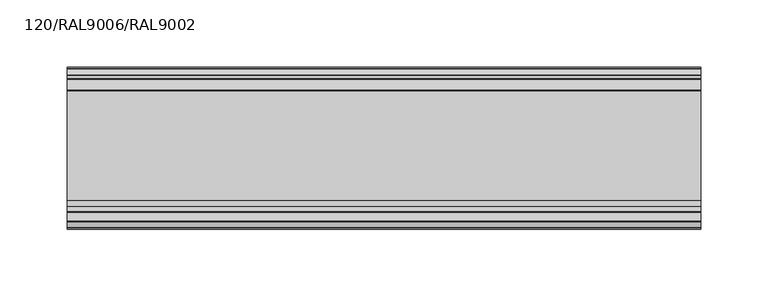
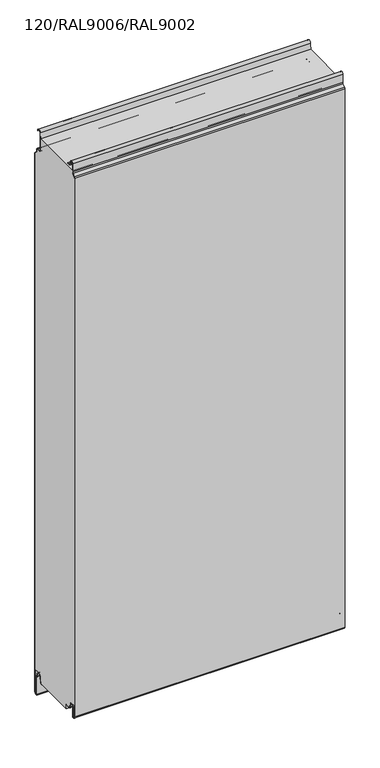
"""IFC4 building model written with IfcOpenShell, lengths in millimetres: plate geometry, TR_C_H_FHL_Panel : 120/RAL9006/RAL9002."""

from ifc_helpers import new_model, si_unit, point, frame, frame_2d, origin, place, context, project, spatial, polyline, circle_curve, trimmed, segment, composite_curve, outline, extrude, source, transform, mapped, element, save


def plate_120_ral9006_ral9002_e030643e(model_context):
    return source(origin(), model_context, "Body", "SweptSolid", [
        extrude(outline(composite_curve([segment(polyline([(-17.4455763, 1000.0), (-17.6, 998.2349288), (-17.6, 979.1)]), True, "CONTINUOUS"), segment(trimmed(circle_curve(frame_2d((-14.8, 979.1)), 2.8), [point((-17.6, 979.1))], [point((-14.8, 976.3))], True, "CARTESIAN"), True, "CONTINUOUS"), segment(polyline([(-14.8, 976.3), (-8.9, 976.3)]), True, "CONTINUOUS"), segment(trimmed(circle_curve(frame_2d((-8.9, 974.4)), 1.9), [point((-8.9, 976.3))], [point((-7.0, 974.4))], False, "CARTESIAN"), True, "CONTINUOUS"), segment(polyline([(-7.0, 974.4), (-7.0, 971.5838835)]), True, "CONTINUOUS"), segment(trimmed(circle_curve(frame_2d((-4.2, 971.5838835)), 2.8), [point((-7.0, 971.5838835))], [point((-6.179899, 969.6039845))], True, "CARTESIAN"), True, "CONTINUOUS"), segment(polyline([(-6.179899, 969.6039845), (-1.3564971, 964.7805826)]), True, "CONTINUOUS"), segment(trimmed(circle_curve(frame_2d((-2.7, 963.4370797)), 1.9), [point((-1.3564971, 964.7805826))], [point((-0.8, 963.4370797))], False, "CARTESIAN"), True, "CONTINUOUS"), segment(polyline([(-0.8, 963.4370797), (-0.8, 15.9993484), (-12.3520294, 15.9993484)]), True, "CONTINUOUS"), segment(trimmed(circle_curve(frame_2d((-12.3520294, 11.0993484)), 4.9), [point((-12.3520294, 15.9993484))], [point((-17.2333835, 11.5264116))], True, "CARTESIAN"), True, "CONTINUOUS"), segment(polyline([(-17.2333835, 11.5264116), (-18.0972969, 1.6518352)]), True, "CONTINUOUS"), segment(trimmed(circle_curve(frame_2d((-19.7908279, 1.8)), 1.7), [point((-18.0972969, 1.6518352))], [point((-19.7908279, 0.1))], False, "CARTESIAN"), True, "CONTINUOUS"), segment(polyline([(-19.7908279, 0.1), (-20.8, 0.0), (-94.86, 0.0), (-94.86, 7.9), (-102.3925589, 7.9)]), True, "CONTINUOUS"), segment(trimmed(circle_curve(frame_2d((-102.3925589, 10.85)), 2.95), [point((-102.3925589, 7.9))], [point((-105.2977418, 10.3377379))], False, "CARTESIAN"), True, "CONTINUOUS"), segment(polyline([(-105.2977418, 10.3377379), (-106.364567, 16.3880048)]), True, "CONTINUOUS"), segment(trimmed(circle_curve(frame_2d((-110.55, 15.65)), 4.25), [point((-106.364567, 16.3880048))], [point((-110.55, 19.9))], True, "CARTESIAN"), True, "CONTINUOUS"), segment(polyline([(-110.55, 19.9), (-119.2, 19.9), (-119.2, 989.8218254)]), True, "CONTINUOUS"), segment(trimmed(circle_curve(frame_2d((-117.0, 989.8218254)), 2.2), [point((-119.2, 989.8218254))], [point((-118.5556349, 991.3774603))], False, "CARTESIAN"), True, "CONTINUOUS"), segment(polyline([(-118.5556349, 991.3774603), (-114.1665476, 995.7665476)]), True, "CONTINUOUS"), segment(trimmed(circle_curve(frame_2d((-116.5, 998.1)), 3.3), [point((-114.1665476, 995.7665476))], [point((-113.2, 998.1))], True, "CARTESIAN"), True, "CONTINUOUS"), segment(polyline([(-113.2, 998.1), (-113.2, 1000.0), (-17.4455763, 1000.0)]), True, "CONTINUOUS")], self_intersect=False)), frame((-235.0, 0.0, 0.0), z_axis=(1.0, 0.0, 0.0), x_axis=(0.0, 1.0, 0.0)), (0.0, 0.0, 1.0), 470.0),
        extrude(outline(composite_curve([segment(polyline([(-0.8, -25.1006169), (-0.8, 963.4370797)]), True, "CONTINUOUS"), segment(trimmed(circle_curve(frame_2d((-2.7, 963.4370797)), 1.9), [point((-0.8, 963.4370797))], [point((-1.3564971, 964.7805826))], True, "CARTESIAN"), True, "CONTINUOUS"), segment(polyline([(-1.3564971, 964.7805826), (-6.179899, 969.6039845)]), True, "CONTINUOUS"), segment(trimmed(circle_curve(frame_2d((-4.2, 971.5838835)), 2.8), [point((-6.179899, 969.6039845))], [point((-7.0, 971.5838835))], False, "CARTESIAN"), True, "CONTINUOUS"), segment(polyline([(-7.0, 971.5838835), (-7.0, 974.4)]), True, "CONTINUOUS"), segment(trimmed(circle_curve(frame_2d((-8.9, 974.4)), 1.9), [point((-7.0, 974.4))], [point((-8.9, 976.3))], True, "CARTESIAN"), True, "CONTINUOUS"), segment(polyline([(-8.9, 976.3), (-14.8, 976.3)]), True, "CONTINUOUS"), segment(trimmed(circle_curve(frame_2d((-14.8, 979.1)), 2.8), [point((-14.8, 976.3))], [point((-17.6, 979.1))], False, "CARTESIAN"), True, "CONTINUOUS"), segment(polyline([(-17.6, 979.1), (-17.6, 998.2349288), (-16.5051936, 1010.748623)]), True, "CONTINUOUS"), segment(trimmed(circle_curve(frame_2d((-12.5204148, 1010.4)), 4.0), [point((-16.5051936, 1010.748623))], [point((-8.7383405, 1011.7022726))], False, "CARTESIAN"), True, "CONTINUOUS"), segment(polyline([(-8.7383405, 1011.7022726), (-8.4287263, 1010.8030877), (-9.1851412, 1010.5426332), (-9.4947554, 1011.4418181)]), True, "CONTINUOUS"), segment(trimmed(circle_curve(frame_2d((-12.5204148, 1010.4)), 3.2), [point((-9.4947554, 1011.4418181))], [point((-15.7082379, 1010.6788984))], True, "CARTESIAN"), True, "CONTINUOUS"), segment(polyline([(-15.7082379, 1010.6788984), (-16.8, 998.2), (-16.8, 979.1)]), True, "CONTINUOUS"), segment(trimmed(circle_curve(frame_2d((-14.8, 979.1)), 2.0), [point((-16.8, 979.1))], [point((-14.8, 977.1))], True, "CARTESIAN"), True, "CONTINUOUS"), segment(polyline([(-14.8, 977.1), (-8.9, 977.1)]), True, "CONTINUOUS"), segment(trimmed(circle_curve(frame_2d((-8.9, 974.4)), 2.7), [point((-8.9, 977.1))], [point((-6.2, 974.4))], False, "CARTESIAN"), True, "CONTINUOUS"), segment(polyline([(-6.2, 974.4), (-6.2, 971.5838835)]), True, "CONTINUOUS"), segment(trimmed(circle_curve(frame_2d((-4.2, 971.5838835)), 2.0), [point((-6.2, 971.5838835))], [point((-5.6142136, 970.1696699))], True, "CARTESIAN"), True, "CONTINUOUS"), segment(polyline([(-5.6142136, 970.1696699), (-0.7908117, 965.346268)]), True, "CONTINUOUS"), segment(trimmed(circle_curve(frame_2d((-2.7, 963.4370797)), 2.7), [point((-0.7908117, 965.346268))], [point((0.0, 963.4370797))], False, "CARTESIAN"), True, "CONTINUOUS"), segment(polyline([(0.0, 963.4370797), (0.0, -25.1006169)]), True, "CONTINUOUS"), segment(trimmed(circle_curve(frame_2d((-2.7, -25.1006169)), 2.7), [point((0.0, -25.1006169))], [point((-0.8586044, -27.0752719))], False, "CARTESIAN"), True, "CONTINUOUS"), segment(polyline([(-0.8586044, -27.0752719), (-2.8042031, -28.889572)]), True, "CONTINUOUS"), segment(trimmed(circle_curve(frame_2d((-4.1, -27.5)), 1.9), [point((-2.8042031, -28.889572))], [point((-6.0, -27.5))], False, "CARTESIAN"), True, "CONTINUOUS"), segment(polyline([(-6.0, -27.5), (-6.0, 4.8267282)]), True, "CONTINUOUS"), segment(trimmed(circle_curve(frame_2d((-8.5, 4.8267282)), 2.5), [point((-6.0, 4.8267282))], [point((-6.1362036, 5.6406486))], True, "CARTESIAN"), True, "CONTINUOUS"), segment(polyline([(-6.1362036, 5.6406486), (-8.4754033, 12.4341779)]), True, "CONTINUOUS"), segment(trimmed(circle_curve(frame_2d((-12.3520294, 11.0993484)), 4.1), [point((-8.4754033, 12.4341779))], [point((-16.4364277, 11.456687))], True, "CARTESIAN"), True, "CONTINUOUS"), segment(polyline([(-16.4364277, 11.456687), (-17.3003412, 1.5821106)]), True, "CONTINUOUS"), segment(trimmed(circle_curve(frame_2d((-19.7908279, 1.8)), 2.5), [point((-17.3003412, 1.5821106))], [point((-19.7908279, -0.7))], False, "CARTESIAN"), True, "CONTINUOUS"), segment(polyline([(-19.7908279, -0.7), (-20.8, -0.7), (-20.8, 0.1), (-19.7908279, 0.1)]), True, "CONTINUOUS"), segment(trimmed(circle_curve(frame_2d((-19.7908279, 1.8)), 1.7), [point((-19.7908279, 0.1))], [point((-18.0972969, 1.6518352))], True, "CARTESIAN"), True, "CONTINUOUS"), segment(polyline([(-18.0972969, 1.6518352), (-17.2333835, 11.5264116)]), True, "CONTINUOUS"), segment(trimmed(circle_curve(frame_2d((-12.3520294, 11.0993484)), 4.9), [point((-17.2333835, 11.5264116))], [point((-7.7189884, 12.6946324))], False, "CARTESIAN"), True, "CONTINUOUS"), segment(polyline([(-7.7189884, 12.6946324), (-5.3797887, 5.9011031)]), True, "CONTINUOUS"), segment(trimmed(circle_curve(frame_2d((-8.5, 4.8267282)), 3.3), [point((-5.3797887, 5.9011031))], [point((-5.2, 4.8267282))], False, "CARTESIAN"), True, "CONTINUOUS"), segment(polyline([(-5.2, 4.8267282), (-5.2, -27.5)]), True, "CONTINUOUS"), segment(trimmed(circle_curve(frame_2d((-4.1, -27.5)), 1.1), [point((-5.2, -27.5))], [point((-3.3498018, -28.3044891))], True, "CARTESIAN"), True, "CONTINUOUS"), segment(polyline([(-3.3498018, -28.3044891), (-1.4042031, -26.4901889)]), True, "CONTINUOUS"), segment(trimmed(circle_curve(frame_2d((-2.7, -25.1006169)), 1.9), [point((-1.4042031, -26.4901889))], [point((-0.8, -25.1006169))], True, "CARTESIAN"), True, "CONTINUOUS")], self_intersect=False)), frame((-235.0, 0.0, 0.0), z_axis=(1.0, 0.0, 0.0), x_axis=(0.0, 1.0, 0.0)), (0.0, 0.0, 1.0), 470.0),
        extrude(outline(composite_curve([segment(polyline([(-99.0, 7.1), (-102.3925589, 7.1)]), True, "CONTINUOUS"), segment(trimmed(circle_curve(frame_2d((-102.3925589, 10.85)), 3.75), [point((-102.3925589, 7.1))], [point((-106.085588, 10.1988193))], False, "CARTESIAN"), True, "CONTINUOUS"), segment(polyline([(-106.085588, 10.1988193), (-107.1524133, 16.2490862)]), True, "CONTINUOUS"), segment(trimmed(circle_curve(frame_2d((-110.55, 15.65)), 3.45), [point((-107.1524133, 16.2490862))], [point((-114.0, 15.65))], True, "CARTESIAN"), True, "CONTINUOUS"), segment(polyline([(-114.0, 15.65), (-114.0, -1.95)]), True, "CONTINUOUS"), segment(trimmed(circle_curve(frame_2d((-115.95, -1.95)), 1.95), [point((-114.0, -1.95))], [point((-117.3288582, -3.3288582))], False, "CARTESIAN"), True, "CONTINUOUS"), segment(polyline([(-117.3288582, -3.3288582), (-119.1945436, -1.4631728)]), True, "CONTINUOUS"), segment(trimmed(circle_curve(frame_2d((-117.25, 0.4813708)), 2.75), [point((-119.1945436, -1.4631728))], [point((-120.0, 0.4813708))], False, "CARTESIAN"), True, "CONTINUOUS"), segment(polyline([(-120.0, 0.4813708), (-120.0, 989.8218254)]), True, "CONTINUOUS"), segment(trimmed(circle_curve(frame_2d((-117.0, 989.8218254)), 3.0), [point((-120.0, 989.8218254))], [point((-119.1213203, 991.9431458))], False, "CARTESIAN"), True, "CONTINUOUS"), segment(polyline([(-119.1213203, 991.9431458), (-114.732233, 996.332233)]), True, "CONTINUOUS"), segment(trimmed(circle_curve(frame_2d((-116.5, 998.1)), 2.5), [point((-114.732233, 996.332233))], [point((-114.0, 998.1))], True, "CARTESIAN"), True, "CONTINUOUS"), segment(polyline([(-114.0, 998.1), (-114.0, 1012.85)]), True, "CONTINUOUS"), segment(trimmed(circle_curve(frame_2d((-110.75, 1012.85)), 3.25), [point((-114.0, 1012.85))], [point((-107.5493748, 1013.4143566))], False, "CARTESIAN"), True, "CONTINUOUS"), segment(polyline([(-107.5493748, 1013.4143566), (-106.8060618, 1009.1988193)]), True, "CONTINUOUS"), segment(trimmed(circle_curve(frame_2d((-103.1130328, 1009.85)), 3.75), [point((-106.8060618, 1009.1988193))], [point((-103.1130328, 1006.1))], True, "CARTESIAN"), True, "CONTINUOUS"), segment(polyline([(-103.1130328, 1006.1), (-99.0, 1006.1), (-99.0, 1005.3), (-103.1130328, 1005.3)]), True, "CONTINUOUS"), segment(trimmed(circle_curve(frame_2d((-103.1130328, 1009.85)), 4.55), [point((-103.1130328, 1005.3))], [point((-107.5939081, 1009.0599008))], False, "CARTESIAN"), True, "CONTINUOUS"), segment(polyline([(-107.5939081, 1009.0599008), (-108.337221, 1013.275438)]), True, "CONTINUOUS"), segment(trimmed(circle_curve(frame_2d((-110.75, 1012.85)), 2.45), [point((-108.337221, 1013.275438))], [point((-113.2, 1012.85))], True, "CARTESIAN"), True, "CONTINUOUS"), segment(polyline([(-113.2, 1012.85), (-113.2, 998.1)]), True, "CONTINUOUS"), segment(trimmed(circle_curve(frame_2d((-116.5, 998.1)), 3.3), [point((-113.2, 998.1))], [point((-114.1665476, 995.7665476))], False, "CARTESIAN"), True, "CONTINUOUS"), segment(polyline([(-114.1665476, 995.7665476), (-118.5556349, 991.3774603)]), True, "CONTINUOUS"), segment(trimmed(circle_curve(frame_2d((-117.0, 989.8218254)), 2.2), [point((-118.5556349, 991.3774603))], [point((-119.2, 989.8218254))], True, "CARTESIAN"), True, "CONTINUOUS"), segment(polyline([(-119.2, 989.8218254), (-119.2, 0.4813708)]), True, "CONTINUOUS"), segment(trimmed(circle_curve(frame_2d((-117.25, 0.4813708)), 1.95), [point((-119.2, 0.4813708))], [point((-118.6288582, -0.8974874))], True, "CARTESIAN"), True, "CONTINUOUS"), segment(polyline([(-118.6288582, -0.8974874), (-116.7631728, -2.7631728)]), True, "CONTINUOUS"), segment(trimmed(circle_curve(frame_2d((-115.95, -1.95)), 1.15), [point((-116.7631728, -2.7631728))], [point((-114.8, -1.95))], True, "CARTESIAN"), True, "CONTINUOUS"), segment(polyline([(-114.8, -1.95), (-114.8, 15.65)]), True, "CONTINUOUS"), segment(trimmed(circle_curve(frame_2d((-110.55, 15.65)), 4.25), [point((-114.8, 15.65))], [point((-106.364567, 16.3880048))], False, "CARTESIAN"), True, "CONTINUOUS"), segment(polyline([(-106.364567, 16.3880048), (-105.2977418, 10.3377379)]), True, "CONTINUOUS"), segment(trimmed(circle_curve(frame_2d((-102.3925589, 10.85)), 2.95), [point((-105.2977418, 10.3377379))], [point((-102.3925589, 7.9))], True, "CARTESIAN"), True, "CONTINUOUS"), segment(polyline([(-102.3925589, 7.9), (-99.0, 7.9), (-99.0, 7.1)]), True, "CONTINUOUS")], self_intersect=False)), frame((-235.0, 0.0, 0.0), z_axis=(1.0, 0.0, 0.0), x_axis=(0.0, 1.0, 0.0)), (0.0, 0.0, 1.0), 470.0),
    ])


if __name__ == "__main__":
    model = new_model("IFC4")
    model_context = context("Model", 3, world=origin())
    ifc_project = project(units=[si_unit("LENGTHUNIT", "METRE", prefix="MILLI")], contexts=[model_context])
    site = spatial("IfcSite", under=ifc_project)
    building = spatial("IfcBuilding", under=site)
    placement = place(None, origin())
    plate_120_ral9006_ral9002_shape = plate_120_ral9006_ral9002_e030643e(model_context)
    element("IfcPlate", 1, ObjectType="TR_C_H_FHL_Panel : 120/RAL9006/RAL9002", at=placement, inside=building, context=model_context, shape_type="MappedRepresentation", body=[
        mapped(plate_120_ral9006_ral9002_shape, transform((0.0, 0.0, 0.0), x_axis=(1.0, 0.0, 0.0), y_axis=(0.0, 1.0, 0.0), z_axis=(0.0, 0.0, 1.0))),
    ])
    save(model, "model.ifc")
